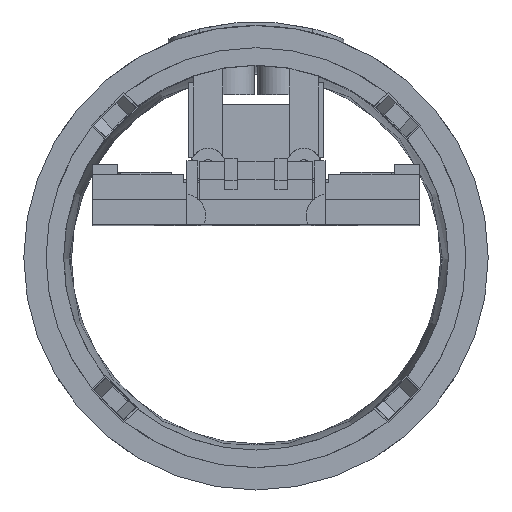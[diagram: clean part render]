
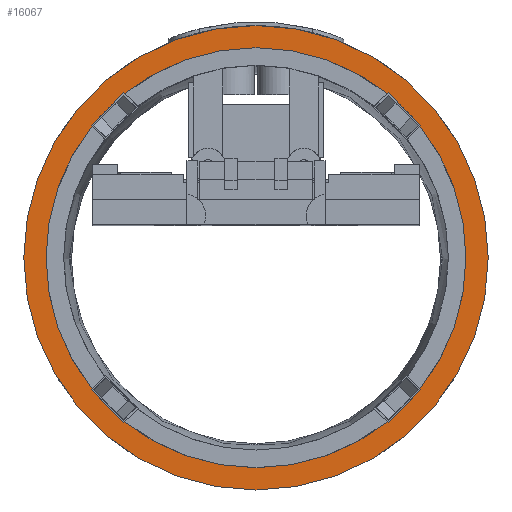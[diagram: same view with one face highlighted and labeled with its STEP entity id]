
A CAD part, top view. The second image highlights one B-rep face of the part: STEP entity #16067.
In plain terms, the highlighted planar face has unit normal (0, 0, 1).
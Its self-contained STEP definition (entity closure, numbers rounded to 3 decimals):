
#13848 = VERTEX_POINT('',#13849);
#13849 = CARTESIAN_POINT('',(37.,0.,144.));
#13855 = EDGE_CURVE('',#13848,#13848,#13856,.T.);
#13856 = CIRCLE('',#13857,37.);
#13857 = AXIS2_PLACEMENT_3D('',#13858,#13859,#13860);
#13858 = CARTESIAN_POINT('',(0.,0.,144.));
#13859 = DIRECTION('',(0.,0.,1.));
#13860 = DIRECTION('',(1.,0.,0.));
#16067 = ADVANCED_FACE('',(#16068,#16071),#16082,.T.);
#16068 = FACE_BOUND('',#16069,.T.);
#16069 = EDGE_LOOP('',(#16070));
#16070 = ORIENTED_EDGE('',*,*,#13855,.T.);
#16071 = FACE_BOUND('',#16072,.T.);
#16072 = EDGE_LOOP('',(#16073));
#16073 = ORIENTED_EDGE('',*,*,#16074,.F.);
#16074 = EDGE_CURVE('',#16075,#16075,#16077,.T.);
#16075 = VERTEX_POINT('',#16076);
#16076 = CARTESIAN_POINT('',(33.45,0.,144.));
#16077 = CIRCLE('',#16078,33.45);
#16078 = AXIS2_PLACEMENT_3D('',#16079,#16080,#16081);
#16079 = CARTESIAN_POINT('',(0.,0.,144.));
#16080 = DIRECTION('',(0.,0.,1.));
#16081 = DIRECTION('',(1.,0.,0.));
#16082 = PLANE('',#16083);
#16083 = AXIS2_PLACEMENT_3D('',#16084,#16085,#16086);
#16084 = CARTESIAN_POINT('',(0.,0.,144.));
#16085 = DIRECTION('',(0.,0.,1.));
#16086 = DIRECTION('',(1.,0.,0.));
